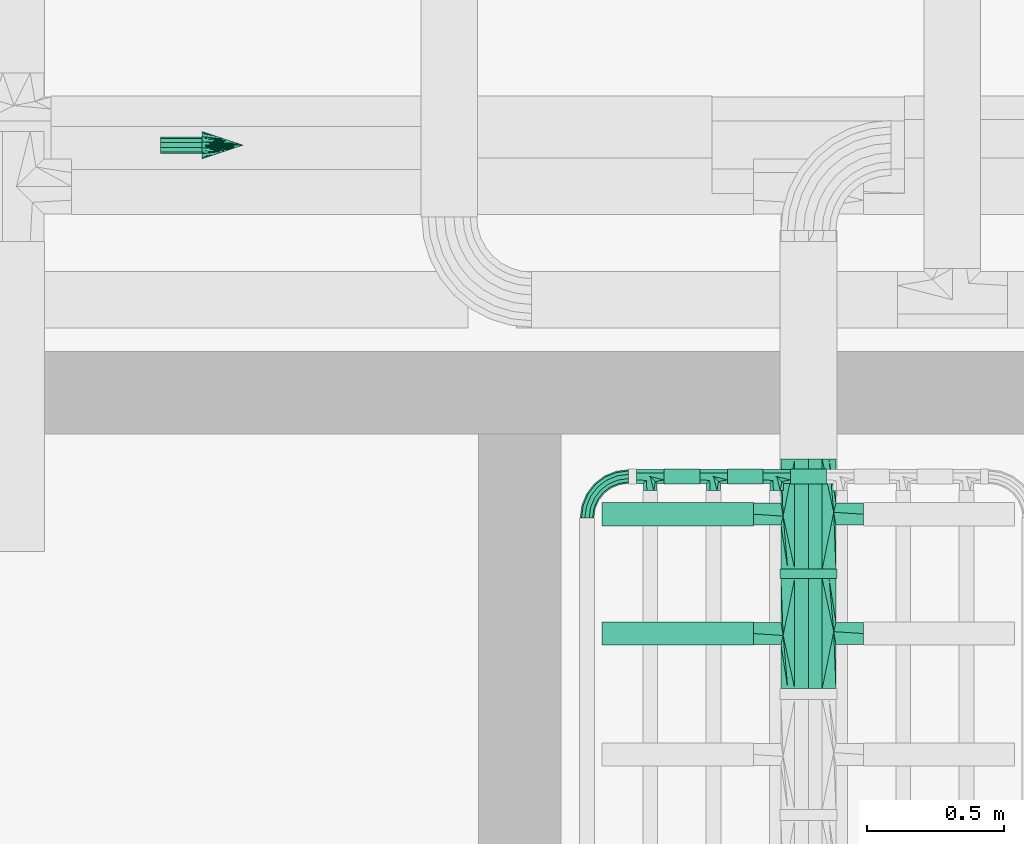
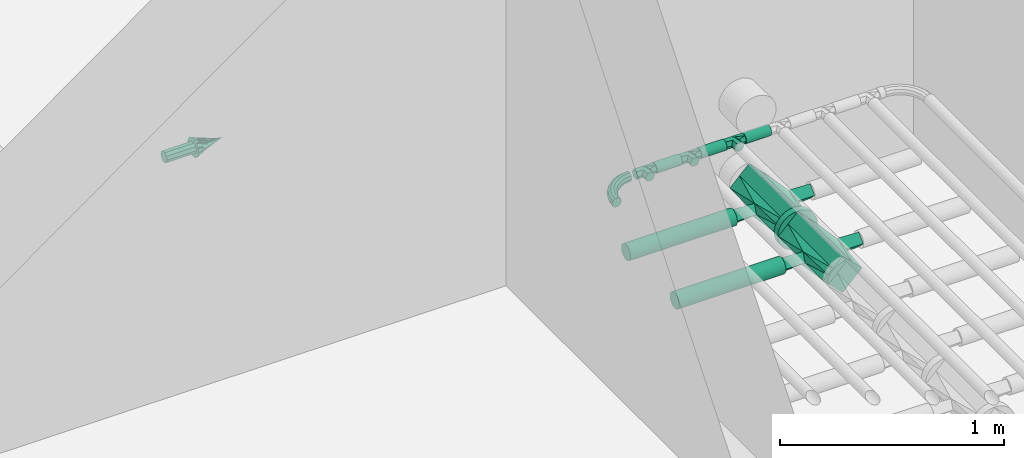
# One storey, part 14 of 28: 6 flow fittings, 6 flow segments, 1 flow controller.
"""IFC2X3 building model written with IfcOpenShell, lengths in millimetres."""

from ifc_helpers import new_model, entity, si_unit, converted_unit, direction, frame, frame_2d, origin, origin_2d_with_axis, place, context, subcontext, project, spatial, circle, extrude, faceted_brep, source, transform, mapped, material, type_object, type_shapes, element, save


model = new_model("IFC2X3")

# Units and contexts
model_context = context("Model", 3, precision=0.01, world=origin(), true_north=direction((6.123031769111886e-17, 1.0)))
body_context = subcontext(model_context, "Body", "Model", "MODEL_VIEW")
ifc_project = project(units=[si_unit("LENGTHUNIT", "METRE", prefix="MILLI"), converted_unit("PLANEANGLEUNIT", "DEGREE", entity("IfcPlaneAngleMeasure", 0.017453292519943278), si_unit("PLANEANGLEUNIT", "RADIAN"), dimensions=[0, 0, 0, 0, 0, 0, 0]), si_unit("AREAUNIT", "SQUARE_METRE")], contexts=[model_context])

# Site, building, storey
site_placement = place(None, frame((7776.576483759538, 118.3519876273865, 0.0)))
site = spatial("IfcSite", under=ifc_project, at=site_placement, Name="Default", CompositionType="ELEMENT")
building_placement = place(site_placement, origin())
building = spatial("IfcBuilding", under=site, at=building_placement, Name="Bygning (endres i Project Information)", CompositionType="ELEMENT")
storey_placement = place(building_placement, frame((0.0, 0.0, 14000.0)))
storey = spatial("IfcBuildingStorey", under=building, at=storey_placement, Name="Plan U1 - Arbeid", CompositionType="ELEMENT", Elevation=14000.000000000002)

# Flow segments
ifc_material_1 = material(Name="SS 2343 Rustfritt stål, prosessrør, generisk")
pipe_segment_type = type_object("IfcPipeSegmentType", Name="Pipe Types:AISI 304L Rustfritt", PredefinedType="NOTDEFINED", material=ifc_material_1)
flow_segment_1_placement = place(storey_placement, origin())
element("IfcFlowSegment", 1, at=flow_segment_1_placement, inside=storey, type_object=pipe_segment_type, Name="Pipe Types:AISI 304L Rustfritt", ObjectType="Pipe Types:AISI 304L Rustfritt", context=body_context, shape_type="SweptSolid", body=[
    extrude(circle(Radius=42.0, at=origin_2d_with_axis()), frame((28224.00137486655, 23905.75730578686, 203.0), z_axis=(1.0, 0.0, 0.0), x_axis=(0.0, -1.0, 0.0)), (0.0, 0.0, 1.0), 550.0000000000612),
])
flow_segment_2_placement = place(storey_placement, origin())
element("IfcFlowSegment", 2, at=flow_segment_2_placement, inside=storey, type_object=pipe_segment_type, Name="Pipe Types:AISI 304L Rustfritt", ObjectType="Pipe Types:AISI 304L Rustfritt", context=body_context, shape_type="SweptSolid", body=[
    extrude(circle(Radius=42.0, at=origin_2d_with_axis()), frame((28224.00137486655, 23471.757305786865, 203.0), z_axis=(1.0, 0.0, 0.0), x_axis=(0.0, -1.0, 0.0)), (0.0, 0.0, 1.0), 550.0000000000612),
])
flow_segment_3_placement = place(storey_placement, origin())
element("IfcFlowSegment", 3, at=flow_segment_3_placement, inside=storey, type_object=pipe_segment_type, Name="Pipe Types:AISI 304L Rustfritt", ObjectType="Pipe Types:AISI 304L Rustfritt", context=body_context, shape_type="SweptSolid", body=[
    extrude(circle(Radius=103.0, at=origin_2d_with_axis()), frame((28974.001374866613, 23671.75730578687, 203.0), z_axis=(0.0, 1.0, 0.0), x_axis=(-1.0, 0.0, 0.0)), (0.0, 0.0, 1.0), 33.999999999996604),
])
flow_segment_4_placement = place(storey_placement, origin())
element("IfcFlowSegment", 4, at=flow_segment_4_placement, inside=storey, type_object=pipe_segment_type, Name="Pipe Types:AISI 304L Rustfritt", ObjectType="Pipe Types:AISI 304L Rustfritt", context=body_context, shape_type="SweptSolid", body=[
    extrude(circle(Radius=27.0, at=frame_2d((0.0, -2.1657342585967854e-12), x_axis=(1.0, 0.0))), frame((28449.001374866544, 24042.757305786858, 500.0), z_axis=(1.0, 0.0, 0.0), x_axis=(0.0, -1.0, 0.0)), (0.0, 0.0, 1.0), 130.00000000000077),
])
flow_segment_5_placement = place(storey_placement, origin())
element("IfcFlowSegment", 5, at=flow_segment_5_placement, inside=storey, type_object=pipe_segment_type, Name="Pipe Types:AISI 304L Rustfritt", ObjectType="Pipe Types:AISI 304L Rustfritt", context=body_context, shape_type="SweptSolid", body=[
    extrude(circle(Radius=27.0, at=frame_2d((0.0, -2.1657342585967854e-12), x_axis=(1.0, 0.0))), frame((28679.00137486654, 24042.757305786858, 500.0), z_axis=(1.0, 0.0, 0.0), x_axis=(0.0, -1.0, 0.0)), (0.0, 0.0, 1.0), 129.9999999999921),
])
flow_segment_6_placement = place(storey_placement, origin())
element("IfcFlowSegment", 6, at=flow_segment_6_placement, inside=storey, type_object=pipe_segment_type, Name="Pipe Types:AISI 304L Rustfritt", ObjectType="Pipe Types:AISI 304L Rustfritt", context=body_context, shape_type="SweptSolid", body=[
    extrude(circle(Radius=27.0, at=frame_2d((0.0, -2.1657342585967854e-12), x_axis=(1.0, 0.0))), frame((28909.001374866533, 24042.757305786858, 500.0), z_axis=(1.0, 0.0, 0.0), x_axis=(0.0, -1.0, 0.0)), (0.0, 0.0, 1.0), 130.00000000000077),
])

# Flow fittings
pipe_fitting_type_1 = type_object("IfcPipeFittingType", Name="VA_prosess_rustfritt_kryss:VA_prosess_rustfritt_kryss", PredefinedType="NOTDEFINED", material=ifc_material_1)
shared_shape_1 = source(origin(), body_context, "Body", "Brep", [
    faceted_brep([(-200.0, -100.0, 0.0), (-200.0, -50.0, 50.0), (-200.0, 0.0, 100.0), (-200.0, 50.0, 50.0), (-200.0, 75.0, 25.0), (-200.0, 100.0, 0.0), (-200.0, 50.0, -50.0), (-200.0, 0.0, -100.0), (-200.0, -50.0, -50.0), (-200.0, -75.0, -25.0), (200.0, 50.0, -50.0), (200.0, 75.0, -25.0), (200.0, 100.0, 0.0), (200.0, 50.0, 50.0), (200.0, 0.0, 100.0), (200.0, -50.0, 50.0), (200.0, -75.0, 25.0), (200.0, -100.0, 0.0), (200.0, -50.0, -50.0), (200.0, 0.0, -100.0), (40.0, -100.0, 0.0), (-7.006670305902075, 91.91895032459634, 39.381551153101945), (-40.0, -100.0, 0.0), (-28.24833242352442, -97.97973758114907, 9.845387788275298), (-16.496664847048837, -95.9594751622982, 19.690775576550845), (-4.744997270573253, -93.93921274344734, 29.53616336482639), (7.00667030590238, -91.91895032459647, 39.38155115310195), (23.50333515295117, -95.95947516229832, 19.690775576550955), (-23.503335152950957, 95.95947516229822, 19.69077557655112), (-40.0, 100.0, 0.0), (40.0, 100.0, 0.0), (28.248332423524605, 97.97973758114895, 9.845387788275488), (16.496664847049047, 95.95947516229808, 19.690775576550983), (4.744997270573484, 93.93921274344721, 29.536163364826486), (-7.017574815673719, -91.91978218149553, -39.37960949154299), (-23.508787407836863, -95.95989109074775, -19.68980474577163), (-28.245606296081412, 97.97994554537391, -9.844902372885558), (-16.491212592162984, 95.95989109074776, -19.689804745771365), (-4.736818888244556, 93.93983663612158, -29.534707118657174), (7.017574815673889, 91.91978218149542, -39.37960949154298), (23.508787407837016, 95.95989109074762, -19.689804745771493), (28.24560629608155, -97.97994554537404, -9.844902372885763), (16.49121259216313, -95.95989109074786, -19.689804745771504), (4.736818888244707, -93.9398366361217, -29.53470711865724), (19.233483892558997, -200.0, -20.76651610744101), (29.616741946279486, -200.0, -10.383258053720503), (40.0, -200.0, 0.0), (20.0, -200.0, 20.0), (0.0, -200.0, 40.0), (-19.2334837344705, -200.0, 20.76651626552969), (-29.616741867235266, -200.0, 10.383258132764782), (-40.0, -200.0, 0.0), (-20.0, -200.0, -20.0), (0.0, -200.0, -40.0), (-19.23348389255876, 200.0, -20.766516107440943), (-29.616741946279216, 200.0, -10.38325805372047), (-40.0, 200.0, 0.0), (-20.0, 200.0, 20.0), (0.0, 200.0, 40.0), (19.233483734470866, 200.0, 20.76651626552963), (29.616741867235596, 200.0, 10.383258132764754), (40.0, 200.0, 0.0), (20.0, 200.0, -20.0), (0.0, 200.0, -40.0)], [[[0, 1, 2, 3, 4, 5, 6, 7, 8, 9]], [[10, 11, 12, 13, 14, 15, 16, 17, 18, 19]], [[17, 16, 20]], [[15, 14, 2, 1]], [[3, 13, 21]], [[0, 22, 23, 24, 25, 26]], [[0, 26, 1]], [[16, 26, 27, 20]], [[4, 21, 28, 29]], [[21, 13, 12]], [[26, 16, 15]], [[12, 30, 31, 32, 33, 21]], [[29, 5, 4]], [[2, 14, 13, 3]], [[21, 4, 3]], [[1, 26, 15]], [[11, 30, 12]], [[10, 19, 7, 6]], [[34, 9, 8]], [[9, 34, 35, 22]], [[5, 29, 36, 37, 38, 39]], [[39, 11, 10]], [[5, 39, 6]], [[34, 18, 17]], [[11, 39, 40, 30]], [[17, 20, 41, 42, 43, 34]], [[22, 0, 9]], [[7, 19, 18, 8]], [[6, 39, 10]], [[8, 18, 34]], [[44, 45, 46, 47, 48, 49, 50, 51, 52, 53]], [[25, 24, 23, 49]], [[49, 23, 50]], [[50, 22, 51]], [[49, 48, 25]], [[26, 48, 47]], [[47, 27, 26]], [[20, 27, 46]], [[46, 27, 47]], [[48, 26, 25]], [[22, 50, 23]], [[43, 42, 41, 44]], [[44, 41, 45]], [[45, 20, 46]], [[44, 53, 43]], [[34, 53, 52]], [[52, 35, 34]], [[22, 35, 51]], [[51, 35, 52]], [[53, 34, 43]], [[20, 45, 41]], [[54, 55, 56, 57, 58, 59, 60, 61, 62, 63]], [[33, 32, 31, 59]], [[59, 31, 60]], [[60, 30, 61]], [[59, 58, 33]], [[21, 58, 57]], [[57, 28, 21]], [[29, 28, 56]], [[56, 28, 57]], [[58, 21, 33]], [[30, 60, 31]], [[38, 37, 36, 54]], [[54, 36, 55]], [[55, 29, 56]], [[54, 63, 38]], [[39, 63, 62]], [[62, 40, 39]], [[30, 40, 61]], [[61, 40, 62]], [[63, 39, 38]], [[29, 55, 36]]]),
])
type_shapes(pipe_fitting_type_1, [shared_shape_1])
for number, where, z_axis, x_axis in (
    (7, (28974.001374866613, 23905.75730578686, 203.0), (0.0, 0.0, 1.0), (0.0, 1.0, 0.0)),
    (8, (28974.001374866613, 23471.757305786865, 203.0), (0.0, 0.0, 1.0), (0.0, 1.0, 0.0)),
):
    element("IfcFlowFitting", number, at=place(storey_placement, frame(where, z_axis=z_axis, x_axis=x_axis)), inside=storey, type_object=pipe_fitting_type_1, material=ifc_material_1, Name="VA_prosess_rustfritt_kryss:VA_prosess_rustfritt_kryss", ObjectType="VA_prosess_rustfritt_kryss:VA_prosess_rustfritt_kryss", context=body_context, shape_type="MappedRepresentation", body=[
        mapped(shared_shape_1, transform((0.0, 0.0, 0.0), scale=1.0)),
    ])
pipe_fitting_type_2 = type_object("IfcPipeFittingType", Name="VA_prosess_rustfritt_bend_D+100:VA_prosess_rustfritt_bend_D+100", PredefinedType="NOTDEFINED", material=ifc_material_1)
shared_shape_2 = source(origin(), body_context, "Body", "Brep", [
    faceted_brep([(-104.70666710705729, -19.03701960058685, 0.0), (-105.9424180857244, -14.425134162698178, 14.694631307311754), (-150.0, -20.22542485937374, 14.694631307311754), (-150.0, -25.0, 0.0), (-109.17765614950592, -2.351061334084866, 23.776412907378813), (-150.0, -7.725424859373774, 23.776412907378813), (-113.17663031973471, 12.573313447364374, 23.776412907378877), (-150.0, 7.725424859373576, 23.776412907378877), (-116.41186838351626, 24.647386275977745, 14.694631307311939), (-150.0, 20.225424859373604, 14.694631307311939), (-117.6476193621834, 29.259271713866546, 0.0), (-150.0, 25.0, 0.0), (-116.41186838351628, 24.647386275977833, -14.69463130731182), (-150.0, 20.225424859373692, -14.69463130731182), (-113.17663031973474, 12.573313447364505, -23.77641290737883), (-150.0, 7.725424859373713, -23.77641290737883), (-109.17765614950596, -2.351061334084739, -23.776412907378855), (-150.0, -7.725424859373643, -23.776412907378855), (-105.94241808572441, -14.425134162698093, -14.694631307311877), (-150.0, -20.22542485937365, -14.694631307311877), (-62.49999999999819, -1.554445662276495, 0.0), (-64.88728757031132, 2.5804577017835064, 14.694631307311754), (-71.13728757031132, 13.405775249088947, 23.776412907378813), (-78.86271242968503, 26.78660361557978, 23.776412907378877), (-85.11271242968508, 37.61192116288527, 14.694631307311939), (-87.49999999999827, 41.746824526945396, 0.0), (-85.11271242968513, 37.611921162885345, -14.69463130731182), (-78.8627124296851, 26.786603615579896, -23.77641290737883), (-71.13728757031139, 13.40577524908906, -23.776412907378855), (-64.88728757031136, 2.5804577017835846, -14.694631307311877), (-26.256313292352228, 26.25631329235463, 0.0), (-29.63244775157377, 29.632447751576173, 14.694631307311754), (-38.47128251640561, 38.471282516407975, 23.776412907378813), (-49.396683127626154, 49.39668312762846, 23.776412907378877), (-58.235517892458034, 58.23551789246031, 14.694631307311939), (-61.611652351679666, 61.61165235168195, 0.0), (-58.23551789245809, 58.235517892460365, -14.69463130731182), (-49.39668312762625, 49.396683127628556, -23.77641290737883), (-38.4712825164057, 38.47128251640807, -23.776412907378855), (-29.632447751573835, 29.632447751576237, -14.694631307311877), (1.5544456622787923, 62.50000000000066, 0.0), (-2.580457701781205, 64.8872875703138, 14.694631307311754), (-13.405775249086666, 71.13728757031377, 23.776412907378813), (-26.78660361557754, 78.86271242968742, 23.776412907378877), (-37.61192116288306, 85.1127124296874, 14.694631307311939), (-41.746824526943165, 87.50000000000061, 0.0), (-37.611921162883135, 85.11271242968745, -14.69463130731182), (-26.786603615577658, 78.86271242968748, -23.77641290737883), (-13.40577524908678, 71.13728757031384, -23.776412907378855), (-2.5804577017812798, 64.88728757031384, -14.694631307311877), (19.037019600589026, 104.70666710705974, 0.0), (14.425134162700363, 105.94241808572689, 14.694631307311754), (2.351061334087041, 109.17765614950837, 23.776412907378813), (-12.57331344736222, 113.17663031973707, 23.776412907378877), (-24.647386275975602, 116.41186838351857, 14.694631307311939), (-29.259271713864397, 117.64761936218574, 0.0), (-24.64738627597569, 116.4118683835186, -14.69463130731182), (-12.573313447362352, 113.17663031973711, -23.77641290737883), (2.351061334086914, 109.1776561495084, -23.776412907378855), (14.425134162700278, 105.9424180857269, -14.694631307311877), (25.0, 150.0, 0.0), (20.22542485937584, 150.0, 14.694631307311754), (7.725424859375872, 150.0, 23.776412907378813), (-7.725424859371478, 150.0, 23.776412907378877), (-20.225424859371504, 150.0, 14.694631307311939), (-25.0, 150.0, 0.0), (-20.225424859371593, 150.0, -14.69463130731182), (-7.725424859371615, 150.0, -23.77641290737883), (7.725424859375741, 150.0, -23.776412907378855), (20.22542485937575, 150.0, -14.694631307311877)], [[[0, 1, 2, 3]], [[1, 4, 5, 2]], [[4, 6, 7, 5]], [[6, 8, 9, 7]], [[8, 10, 11, 9]], [[10, 12, 13, 11]], [[12, 14, 15, 13]], [[14, 16, 17, 15]], [[16, 18, 19, 17]], [[18, 0, 3, 19]], [[20, 21, 1, 0]], [[21, 22, 4, 1]], [[22, 23, 6, 4]], [[23, 24, 8, 6]], [[24, 25, 10, 8]], [[25, 26, 12, 10]], [[26, 27, 14, 12]], [[27, 28, 16, 14]], [[28, 29, 18, 16]], [[29, 20, 0, 18]], [[30, 31, 21, 20]], [[31, 32, 22, 21]], [[32, 33, 23, 22]], [[33, 34, 24, 23]], [[34, 35, 25, 24]], [[35, 36, 26, 25]], [[36, 37, 27, 26]], [[37, 38, 28, 27]], [[38, 39, 29, 28]], [[39, 30, 20, 29]], [[40, 41, 31, 30]], [[41, 42, 32, 31]], [[42, 43, 33, 32]], [[43, 44, 34, 33]], [[44, 45, 35, 34]], [[45, 46, 36, 35]], [[46, 47, 37, 36]], [[47, 48, 38, 37]], [[48, 49, 39, 38]], [[49, 40, 30, 39]], [[50, 51, 41, 40]], [[51, 52, 42, 41]], [[52, 53, 43, 42]], [[53, 54, 44, 43]], [[54, 55, 45, 44]], [[55, 56, 46, 45]], [[56, 57, 47, 46]], [[57, 58, 48, 47]], [[58, 59, 49, 48]], [[59, 50, 40, 49]], [[60, 61, 51, 50]], [[61, 62, 52, 51]], [[62, 63, 53, 52]], [[63, 64, 54, 53]], [[64, 65, 55, 54]], [[65, 66, 56, 55]], [[66, 67, 57, 56]], [[67, 68, 58, 57]], [[68, 69, 59, 58]], [[69, 60, 50, 59]], [[3, 2, 5, 7, 9, 11, 13, 15, 17, 19]], [[69, 68, 67, 66, 65, 64, 63, 62, 61, 60]]]),
])
type_shapes(pipe_fitting_type_2, [shared_shape_2])
flow_fitting_placement = place(storey_placement, frame((28169.001374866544, 24042.757305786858, 500.0), z_axis=(0.0, 0.0, 1.0), x_axis=(-1.0, 0.0, 0.0)))
element("IfcFlowFitting", 9, at=flow_fitting_placement, inside=storey, type_object=pipe_fitting_type_2, material=ifc_material_1, Name="VA_prosess_rustfritt_bend_D+100:VA_prosess_rustfritt_bend_D+100", ObjectType="VA_prosess_rustfritt_bend_D+100:VA_prosess_rustfritt_bend_D+100", context=body_context, shape_type="MappedRepresentation", body=[
    mapped(shared_shape_2, transform((0.0, 0.0, 0.0), scale=1.0)),
])
pipe_fitting_type_3 = type_object("IfcPipeFittingType", Name="VA_prosess_rustfritt_T_D=L:T-rør_prosess_D=L", PredefinedType="NOTDEFINED", material=ifc_material_1)
shared_shape_3 = source(origin(), body_context, "Body", "Brep", [
    faceted_brep([(-50.0, 12.499999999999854, 21.650635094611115), (-50.0, 18.74999999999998, 10.825317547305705), (-50.0, 25.0, 0.0), (-50.0, 19.790105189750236, -9.023802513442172), (-50.0, 12.50000000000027, -21.65063509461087), (-50.0, 0.0, -21.650635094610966), (-50.0, -12.499999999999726, -21.65063509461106), (-50.0, -18.74999999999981, -10.825317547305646), (-50.0, -25.0, 0.0), (-50.0, -21.874999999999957, 5.412658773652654), (-50.0, -18.750000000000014, 10.825317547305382), (-50.0, -12.50000000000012, 21.650635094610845), (-50.0, 0.0, 21.65063509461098), (50.0, 0.0, -21.650635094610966), (50.0, 12.499999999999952, -21.65063509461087), (50.0, 18.749999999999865, -10.825317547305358), (50.0, 25.0, 0.0), (50.0, 18.749999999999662, 10.825317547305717), (50.0, 12.499999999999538, 21.650635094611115), (50.0, 0.0, 21.65063509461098), (50.0, -12.500000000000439, 21.650635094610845), (50.0, -18.750000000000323, 10.825317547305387), (50.0, -25.0, 0.0), (50.0, -21.875000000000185, -5.41265877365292), (50.0, -18.75000000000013, -10.825317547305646), (50.0, -12.500000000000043, -21.65063509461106), (21.570584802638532, -21.570584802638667, 8.600842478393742), (18.14116960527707, -18.141169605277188, 17.20168495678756), (0.0, 0.0, 25.0), (-20.11623159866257, -20.11623159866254, 9.202284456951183), (-14.012032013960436, -14.01203201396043, 20.704177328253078), (25.0, -25.0, 0.0), (-25.0, -25.0, 0.0), (-19.50601600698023, -19.506016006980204, 10.352088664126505), (20.11623207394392, -20.11623207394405, -9.20228356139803), (-21.570584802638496, -21.570584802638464, -8.600842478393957), (0.0, 0.0, -25.0), (19.506016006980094, -19.50601600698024, -10.35208866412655), (14.012032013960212, -14.012032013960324, -20.7041773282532), (-18.141169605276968, -18.14116960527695, -17.201684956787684), (12.5, -50.0, -21.65063509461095), (19.790105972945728, -50.0, -9.023801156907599), (25.0, -50.0, 0.0), (18.74999999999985, -50.0, 10.82531754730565), (12.499999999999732, -50.0, 21.650635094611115), (0.0, -50.0, 21.65063509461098), (-12.500000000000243, -50.0, 21.650635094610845), (-19.79010601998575, -50.0, 9.023801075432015), (-25.0, -50.0, 0.0), (-18.75, -50.0, -10.825317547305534), (-12.49999999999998, -50.0, -21.65063509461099), (0.0, -50.0, -21.65063509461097)], [[[0, 1, 2, 3, 4, 5, 6, 7, 8, 9, 10, 11, 12]], [[13, 14, 15, 16, 17, 18, 19, 20, 21, 22, 23, 24, 25]], [[26, 22, 21]], [[27, 21, 20]], [[28, 20, 19, 18]], [[29, 10, 9]], [[11, 10, 30]], [[21, 27, 26]], [[22, 26, 31]], [[8, 32, 9]], [[20, 28, 27]], [[10, 29, 33, 30]], [[2, 1, 0, 18, 17, 16]], [[30, 12, 11]], [[30, 28, 12]], [[0, 28, 18]], [[32, 29, 9]], [[28, 0, 12]], [[4, 3, 2, 16, 15, 14]], [[31, 34, 23]], [[8, 35, 32]], [[4, 14, 36]], [[24, 34, 37, 38]], [[5, 4, 36, 6]], [[13, 25, 38]], [[31, 23, 22]], [[34, 24, 23]], [[38, 25, 24]], [[39, 6, 36]], [[7, 35, 8]], [[7, 39, 35]], [[36, 14, 13]], [[39, 7, 6]], [[38, 36, 13]], [[40, 41, 42, 43, 44, 45, 46, 47, 48, 49, 50, 51]], [[33, 46, 30]], [[32, 48, 47]], [[47, 33, 29, 32]], [[30, 46, 45]], [[27, 44, 43]], [[31, 43, 42]], [[46, 33, 47]], [[30, 45, 28]], [[43, 31, 26, 27]], [[28, 45, 44]], [[28, 44, 27]], [[37, 40, 38]], [[31, 42, 41]], [[41, 37, 34, 31]], [[38, 40, 51]], [[36, 50, 39]], [[32, 49, 48]], [[39, 50, 49]], [[40, 37, 41]], [[38, 51, 36]], [[49, 32, 35, 39]], [[36, 51, 50]]]),
])
type_shapes(pipe_fitting_type_3, [shared_shape_3])
for number, where, z_axis, x_axis in (
    (10, (28399.001374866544, 24042.757305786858, 500.0), (0.0, 0.0, -1.0), (-1.0, 0.0, 0.0)),
    (11, (28629.001374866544, 24042.757305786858, 500.0), (0.0, 0.0, -1.0), (-1.0, 0.0, 0.0)),
    (12, (28859.001374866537, 24042.757305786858, 500.0), (0.0, 0.0, -1.0), (-1.0, 0.0, 0.0)),
):
    element("IfcFlowFitting", number, at=place(storey_placement, frame(where, z_axis=z_axis, x_axis=x_axis)), inside=storey, type_object=pipe_fitting_type_3, material=ifc_material_1, Name="VA_prosess_rustfritt_T_D=L:T-rør_prosess_D=L", ObjectType="VA_prosess_rustfritt_T_D=L:T-rør_prosess_D=L", context=body_context, shape_type="MappedRepresentation", body=[
        mapped(shared_shape_3, transform((0.0, 0.0, 0.0), scale=1.0)),
    ])

# Flow controller
ifc_material_2 = material(Name="Flow Pil")
valve_type = type_object("IfcValveType", Name="Flow Arrow 3D:Lengde 300", PredefinedType="NOTDEFINED", material=ifc_material_2)
shared_shape_4 = source(origin(), body_context, "Body", "Brep", [
    faceted_brep([(0.0, 30.0, 0.0), (0.0, 27.135254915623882, -8.816778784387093), (0.0, 24.2705098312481, -17.633557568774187), (-150.0, 24.2705098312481, -17.633557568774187), (-150.0, 27.135254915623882, -8.816778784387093), (-150.0, 30.0, 0.0), (0.0, -27.135254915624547, -8.816778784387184), (0.0, -30.0, 0.0), (-150.0, -30.0, 0.0), (-150.0, -27.97082116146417, -6.245170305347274), (-150.0, -26.120665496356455, -11.939363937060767), (-150.0, -24.27050983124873, -17.63355756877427), (0.0, -24.27050983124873, -17.63355756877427), (0.0, 9.270509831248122, -28.531695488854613), (-150.0, 9.270509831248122, -28.531695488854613), (-150.0, 16.770509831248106, -23.082626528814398), (0.0, 16.77050983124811, -23.082626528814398), (-150.0, 0.0, -28.531695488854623), (0.0, 0.0, -28.531695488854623), (0.0, -9.27050983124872, -28.53169548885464), (-150.0, -9.27050983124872, -28.53169548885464), (-150.0, -16.770509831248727, -23.08262652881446), (0.0, -16.770509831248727, -23.08262652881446), (0.0, -24.27050983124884, 17.633557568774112), (-150.0, -24.27050983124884, 17.633557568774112), (-150.0, -27.135254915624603, 8.816778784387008), (0.0, -27.135254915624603, 8.816778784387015), (-150.0, -16.770509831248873, 23.082626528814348), (0.0, -16.770509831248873, 23.082626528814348), (0.0, -9.270509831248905, 28.53169548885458), (-150.0, -9.270509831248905, 28.53169548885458), (-150.0, 27.9708211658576, 6.2451702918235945), (-150.0, 26.12066549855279, 11.939363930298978), (-150.0, 24.270509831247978, 17.633557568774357), (0.0, 24.270509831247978, 17.633557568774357), (0.0, 27.135254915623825, 8.816778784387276), (0.0, 0.0, 28.531695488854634), (0.0, 9.270509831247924, 28.531695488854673), (-150.0, 9.270509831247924, 28.531695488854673), (-150.0, 0.0, 28.531695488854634), (-150.0, 16.770509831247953, 23.082626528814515), (0.0, 16.770509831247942, 23.082626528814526), (-150.0, -50.0, 0.0), (-150.0, -48.14398173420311, -8.131747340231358), (-150.0, -47.75703944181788, -9.827052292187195), (-150.0, -47.37009714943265, -11.522357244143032), (-150.0, -46.59621256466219, -14.912967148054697), (-150.0, -45.82232797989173, -18.303577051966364), (-150.0, -45.04844339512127, -21.69418695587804), (-150.0, -48.14398173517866, 8.13174733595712), (-150.0, -47.7570394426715, 9.82705228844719), (-150.0, -47.37009715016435, 11.522357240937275), (-150.0, -46.59621256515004, 14.912967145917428), (-150.0, -45.82232798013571, 18.303577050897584), (-150.0, -45.048443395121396, 21.69418695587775), (-150.0, -43.31419923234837, 23.8688603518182), (-150.0, -41.57995506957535, 26.04353374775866), (-150.0, -38.11146674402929, 30.39288053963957), (-150.0, -34.64297841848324, 34.74222733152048), (-150.0, -32.90873425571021, 36.91690072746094), (-150.0, -31.17449009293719, 39.09157412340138), (-150.0, -26.16237924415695, 41.50527949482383), (-150.0, -23.656323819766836, 42.71213218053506), (-150.0, -21.150268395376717, 43.91898486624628), (-150.0, -16.13815754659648, 46.33269023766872), (-150.0, -11.126046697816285, 48.746395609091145), (-150.0, -5.563023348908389, 48.746395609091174), (-150.0, 0.0, 48.746395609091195), (-150.0, 5.563023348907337, 48.746395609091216), (-150.0, 11.126046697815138, 48.74639560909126), (-150.0, 16.138157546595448, 46.332690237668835), (-150.0, 21.150268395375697, 43.91898486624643), (-150.0, 26.16237924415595, 41.50527949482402), (-150.0, 31.174490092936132, 39.09157412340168), (-150.0, 34.64297841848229, 34.74222733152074), (-150.0, 36.37722258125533, 32.56755393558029), (-150.0, 38.11146674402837, 30.39288053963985), (-150.0, 41.57995506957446, 26.043533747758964), (-150.0, 43.31419923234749, 23.868860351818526), (-150.0, 45.04844339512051, 21.69418695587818), (-150.0, 45.82232795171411, 18.303577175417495), (-150.0, 46.596212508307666, 14.912967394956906), (-150.0, 47.37009706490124, 11.522357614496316), (-150.0, 47.757039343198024, 9.827052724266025), (-150.0, 48.14398162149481, 8.131747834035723), (-150.0, 50.0, 0.0), (-150.0, 48.143981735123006, -8.131747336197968), (-150.0, 47.757039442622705, -9.82705228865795), (-150.0, 47.37009715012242, -11.522357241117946), (-150.0, 46.596212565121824, -14.912967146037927), (-150.0, 45.82232798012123, -18.30357705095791), (-150.0, 45.048443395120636, -21.694186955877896), (-150.0, 43.314199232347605, -23.868860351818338), (-150.0, 41.579955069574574, -26.043533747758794), (-150.0, 38.111466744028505, -30.392880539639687), (-150.0, 34.64297841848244, -34.74222733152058), (-150.0, 32.90873425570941, -36.91690072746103), (-150.0, 31.174490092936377, -39.09157412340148), (-150.0, 26.162379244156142, -41.5052794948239), (-150.0, 23.656323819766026, -42.712132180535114), (-150.0, 21.150268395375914, -43.91898486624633), (-150.0, 16.13815754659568, -46.33269023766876), (-150.0, 11.126046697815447, -48.74639560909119), (-150.0, 5.563023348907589, -48.746395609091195), (-150.0, 0.0, -48.7463956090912), (-150.0, -5.56302334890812, -48.746395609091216), (-150.0, -11.126046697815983, -48.74639560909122), (-150.0, -16.138157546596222, -46.332690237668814), (-150.0, -21.150268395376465, -43.9189848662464), (-150.0, -26.162379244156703, -41.50527949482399), (-150.0, -31.174490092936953, -39.09157412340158), (-150.0, -43.31419923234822, -23.86886035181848), (-150.0, -41.57995506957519, -26.043533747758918), (-150.0, -38.11146674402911, -30.39288053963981), (-150.0, -36.377222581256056, -32.56755393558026), (-150.0, -34.642978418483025, -34.742227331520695), (-197.898349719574, 34.03388342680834, 0.0), (-189.9152914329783, 36.69490285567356, 0.0), (-185.92376228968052, 38.02541257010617, 0.0), (-181.93223314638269, 39.355922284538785, 0.0), (-177.94070400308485, 40.68643199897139, 0.0), (-173.949174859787, 42.01694171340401, 0.0), (-169.95764571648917, 43.34745142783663, 0.0), (-165.96611657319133, 44.677961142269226, 0.0), (-300.0, 0.0, 0.0), (-289.2330582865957, 3.588980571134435, 0.0), (-235.39834971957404, 21.533883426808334, 0.0), (-256.93223314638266, 14.355922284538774, 0.0), (-278.46611657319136, 7.177961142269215, 0.0), (-267.69917485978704, 10.766941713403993, 0.0), (-278.46611724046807, -7.177960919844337, 0.0), (-289.23305862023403, -3.5889804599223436, 0.0), (-205.88141034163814, -31.372863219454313, 0.0), (-251.54876379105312, -16.150412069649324, 0.0), (-256.9322344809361, -14.35592183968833, 0.0), (-224.63140800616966, 25.122863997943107, 0.0), (-197.89835172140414, -34.033882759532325, 0.0), (-235.3983517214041, -21.533882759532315, 0.0), (-205.88140800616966, 31.372863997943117, 0.0), (-213.86446629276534, 28.71184456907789, 0.0), (-177.9407051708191, -40.68643160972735, 0.0), (-181.93223448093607, -39.355921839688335, 0.0), (-185.9237637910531, -38.025412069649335, 0.0), (-189.91529310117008, -36.694902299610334, 0.0), (-165.96611724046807, -44.677960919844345, 0.0), (-169.95764655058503, -43.347451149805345, 0.0), (-173.94917586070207, -42.016941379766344, 0.0), (-251.54876298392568, 16.150412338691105, 0.0), (-246.16529143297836, 17.944902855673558, 0.0), (-224.63141034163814, -25.12286321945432, 0.0), (-267.6991758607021, -10.766941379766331, 0.0), (-213.86446896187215, -28.711843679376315, 0.0), (-246.16529310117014, -17.944902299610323, 0.0), (0.0, 0.0, 0.0)], [[[0, 1, 2, 3, 4, 5]], [[6, 7, 8, 9, 10, 11, 12]], [[13, 14, 15, 3, 2, 16]], [[17, 14, 13, 18, 19, 20]], [[12, 11, 21, 20, 19, 22]], [[23, 24, 25, 8, 7, 26]], [[27, 24, 23, 28, 29, 30]], [[0, 5, 31, 32, 33, 34, 35]], [[30, 29, 36, 37, 38, 39]], [[40, 38, 37, 41, 34, 33]], [[8, 42, 43]], [[8, 43, 44]], [[8, 44, 45]], [[8, 45, 46]], [[8, 46, 47]], [[8, 47, 48]], [[48, 9, 8]], [[8, 49, 42]], [[8, 50, 49]], [[8, 51, 50]], [[8, 52, 51]], [[8, 53, 52]], [[8, 54, 53]], [[54, 8, 25]], [[54, 25, 24]], [[24, 55, 54]], [[24, 56, 55]], [[24, 57, 56]], [[24, 58, 57]], [[24, 59, 58]], [[24, 60, 59]], [[60, 24, 27]], [[60, 27, 30]], [[30, 61, 60]], [[30, 62, 61]], [[30, 63, 62]], [[30, 64, 63]], [[30, 65, 64]], [[65, 30, 39]], [[65, 39, 38]], [[38, 66, 65]], [[38, 67, 66]], [[38, 68, 67]], [[38, 69, 68]], [[38, 70, 69]], [[38, 71, 70]], [[38, 72, 71]], [[38, 73, 72]], [[73, 38, 40]], [[73, 40, 33]], [[33, 74, 73]], [[33, 75, 74]], [[33, 76, 75]], [[33, 77, 76]], [[33, 78, 77]], [[33, 79, 78]], [[79, 33, 32]], [[79, 32, 31]], [[79, 31, 5]], [[5, 80, 79]], [[5, 81, 80]], [[5, 82, 81]], [[5, 83, 82]], [[5, 84, 83]], [[5, 85, 84]], [[5, 86, 85]], [[5, 87, 86]], [[5, 88, 87]], [[5, 89, 88]], [[5, 90, 89]], [[5, 91, 90]], [[91, 5, 4]], [[91, 4, 3]], [[3, 92, 91]], [[3, 93, 92]], [[3, 94, 93]], [[3, 95, 94]], [[3, 96, 95]], [[3, 97, 96]], [[97, 3, 15]], [[97, 15, 14]], [[14, 98, 97]], [[14, 99, 98]], [[14, 100, 99]], [[14, 101, 100]], [[14, 102, 101]], [[14, 103, 102]], [[14, 104, 103]], [[14, 105, 104]], [[14, 106, 105]], [[106, 14, 17]], [[106, 17, 20]], [[20, 107, 106]], [[20, 108, 107]], [[20, 109, 108]], [[20, 110, 109]], [[110, 20, 21]], [[110, 21, 11]], [[48, 11, 10]], [[11, 48, 111]], [[11, 111, 112]], [[11, 112, 113]], [[11, 113, 114]], [[11, 114, 115]], [[11, 115, 110]], [[48, 10, 9]], [[90, 91, 116, 117, 118, 119, 120, 121, 122, 123, 85, 86, 87, 88, 89]], [[104, 124, 125]], [[97, 126, 96]], [[127, 99, 100, 101]], [[128, 129, 102]], [[105, 130, 131]], [[113, 112, 132]], [[108, 133, 134]], [[130, 105, 106]], [[126, 135, 96]], [[48, 136, 112, 111]], [[109, 110, 137]], [[125, 103, 104]], [[131, 104, 105]], [[138, 94, 139]], [[140, 141, 142, 143, 136, 48, 47, 46, 45, 44, 43, 42, 144, 145, 146]], [[99, 127, 147, 148]], [[114, 149, 110, 115]], [[107, 134, 150]], [[93, 138, 116]], [[151, 114, 113]], [[134, 107, 108]], [[116, 91, 92, 93]], [[113, 132, 151]], [[112, 136, 132]], [[94, 138, 93]], [[139, 95, 135]], [[94, 95, 139]], [[135, 95, 96]], [[137, 110, 149]], [[149, 114, 151]], [[109, 137, 152, 133]], [[109, 133, 108]], [[126, 98, 148]], [[97, 98, 126]], [[148, 98, 99]], [[102, 129, 101]], [[127, 101, 129]], [[150, 106, 107]], [[130, 106, 150]], [[128, 103, 125]], [[102, 103, 128]], [[124, 104, 131]], [[53, 54, 136, 143, 142, 141, 140, 146, 145, 144, 42, 49, 50, 51, 52]], [[132, 57, 151]], [[60, 137, 59]], [[120, 119, 118, 117, 116, 79, 80, 81, 82, 83, 84, 85, 123, 122, 121]], [[72, 73, 126]], [[130, 150, 65]], [[71, 147, 127]], [[134, 62, 63, 64]], [[125, 68, 128]], [[78, 79, 116, 77]], [[76, 77, 138]], [[131, 66, 67]], [[125, 67, 68]], [[128, 68, 69]], [[67, 124, 131]], [[137, 149, 59]], [[62, 134, 133, 152]], [[75, 135, 73, 74]], [[70, 127, 129]], [[56, 132, 136]], [[139, 75, 76]], [[127, 70, 71]], [[136, 54, 55, 56]], [[76, 138, 139]], [[77, 116, 138]], [[57, 132, 56]], [[151, 58, 149]], [[57, 58, 151]], [[149, 58, 59]], [[126, 73, 135]], [[135, 75, 139]], [[72, 126, 148, 147]], [[72, 147, 71]], [[137, 61, 152]], [[60, 61, 137]], [[152, 61, 62]], [[65, 150, 64]], [[134, 64, 150]], [[129, 69, 70]], [[128, 69, 129]], [[124, 67, 125]], [[130, 66, 131]], [[65, 66, 130]], [[153, 12, 22]], [[153, 22, 19]], [[153, 19, 18]], [[153, 6, 12]], [[153, 7, 6]], [[153, 18, 13]], [[153, 13, 16]], [[153, 16, 2]], [[153, 2, 1]], [[153, 1, 0]], [[153, 0, 35]], [[153, 26, 7]], [[153, 23, 26]], [[153, 28, 23]], [[153, 29, 28]], [[153, 35, 34]], [[153, 34, 41]], [[153, 41, 37]], [[153, 37, 36]], [[153, 36, 29]]]),
])
type_shapes(valve_type, [shared_shape_4])
flow_controller_placement = place(storey_placement, frame((26618.04079144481, 25247.757305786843, 470.0), z_axis=(0.0, 0.0, 1.0), x_axis=(-1.0, 7.141479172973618e-06, 0.0)))
element("IfcFlowController", 13, at=flow_controller_placement, inside=storey, type_object=valve_type, material=ifc_material_2, Name="Flow Arrow 3D:Lengde 300", ObjectType="Flow Arrow 3D:Lengde 300", context=body_context, shape_type="MappedRepresentation", body=[
    mapped(shared_shape_4, transform((0.0, 0.0, 0.0), scale=1.0)),
])

save(model, "model.ifc")
